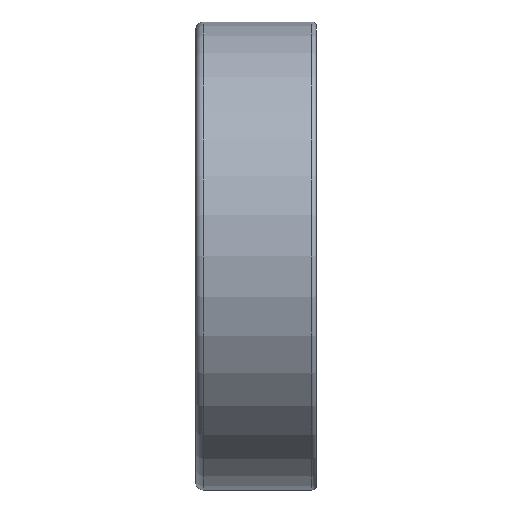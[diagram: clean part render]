
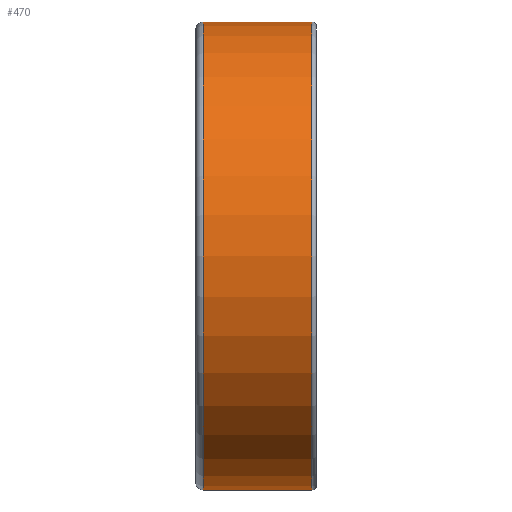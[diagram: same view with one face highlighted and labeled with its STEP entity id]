
A CAD part, front view. The second image highlights one B-rep face of the part: STEP entity #470.
In plain terms, the highlighted cylindrical face has radius 31 mm (diameter 62 mm), a full revolution.
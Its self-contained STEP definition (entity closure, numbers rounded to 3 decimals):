
#152=CYLINDRICAL_SURFACE('',#722,31.);
#232=EDGE_LOOP('',(#324));
#233=EDGE_LOOP('',(#325));
#324=ORIENTED_EDGE('',*,*,#378,.F.);
#325=ORIENTED_EDGE('',*,*,#376,.T.);
#376=EDGE_CURVE('',#659,#659,#396,.T.);
#378=EDGE_CURVE('',#661,#661,#398,.T.);
#396=CIRCLE('',#718,31.);
#398=CIRCLE('',#721,31.);
#470=ADVANCED_FACE('',(#581,#582),#152,.T.);
#581=FACE_BOUND('',#232,.T.);
#582=FACE_BOUND('',#233,.T.);
#659=VERTEX_POINT('',#1434);
#661=VERTEX_POINT('',#1439);
#718=AXIS2_PLACEMENT_3D('',#1433,#831,#832);
#721=AXIS2_PLACEMENT_3D('',#1438,#837,#838);
#722=AXIS2_PLACEMENT_3D('',#1440,#839,#840);
#831=DIRECTION('',(1.,0.,0.));
#832=DIRECTION('',(0.,0.,-1.));
#837=DIRECTION('',(1.,0.,0.));
#838=DIRECTION('',(0.,0.,-1.));
#839=DIRECTION('',(1.,0.,0.));
#840=DIRECTION('',(0.,0.,-1.));
#1433=CARTESIAN_POINT('',(-7.,0.,0.));
#1434=CARTESIAN_POINT('',(-7.,0.,-31.));
#1438=CARTESIAN_POINT('',(7.4,0.,0.));
#1439=CARTESIAN_POINT('',(7.4,0.,-31.));
#1440=CARTESIAN_POINT('',(-7.,0.,0.));
